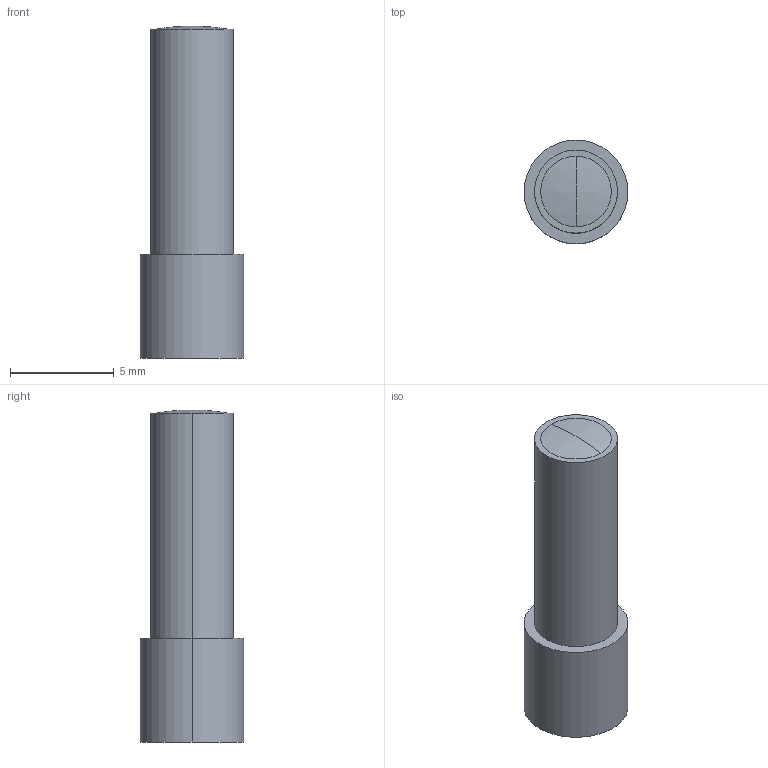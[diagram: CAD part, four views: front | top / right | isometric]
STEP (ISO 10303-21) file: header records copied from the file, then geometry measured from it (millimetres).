
FILE_DESCRIPTION (( 'STEP AP203' ), '1' );
FILE_NAME ('FX-MR6.STEP', '2005-09-08T02:49:16', ( '' ), ( '' ), 'SwSTEP 2.0', 'SolidWorks 2004073', '' );
FILE_SCHEMA (( 'CONFIG_CONTROL_DESIGN' ));
Length unit declared in the file: millimetre
Products named in the file (1): FX-MR6
Bounding box: 5 x 5 x 16 mm (x, y, z)
Volume: 192.8 mm3; surface area: 310.8 mm2
Topology: 1 solids, 1 shells, 12 faces, 22 edges, 15 vertices
Faces by surface type: cylinder 6, plane 4, sphere 2
Entity records: 387 total; most frequent: DIRECTION 64, CARTESIAN_POINT 50, ORIENTED_EDGE 44, AXIS2_PLACEMENT_3D 29, EDGE_CURVE 22, CIRCLE 16, EDGE_LOOP 15, VERTEX_POINT 15
